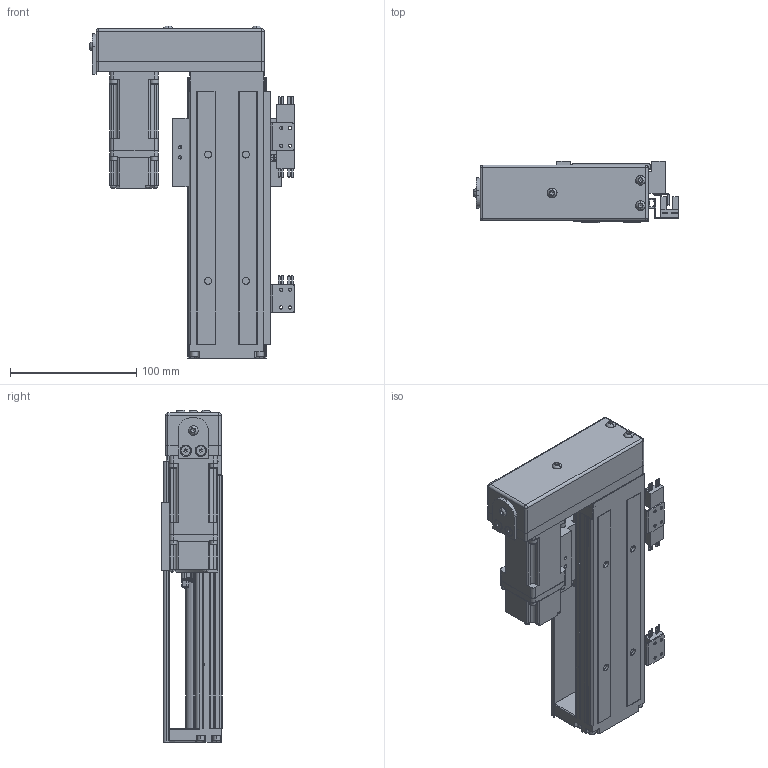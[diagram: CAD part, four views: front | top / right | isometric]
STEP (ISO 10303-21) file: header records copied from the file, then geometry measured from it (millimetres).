
FILE_DESCRIPTION (( 'STEP AP214' ), '1' );
FILE_NAME ('SFKK60-200A1-HR0C.STEP', '2023-02-17T02:19:15', ( '微软用户' ), ( '微软中国' ), 'SwSTEP 2.0', 'SolidWorks 2018', '' );
FILE_SCHEMA (( 'AUTOMOTIVE_DESIGN' ));
Length unit declared in the file: millimetre
Products named in the file (12): hexagon socket countersunk head screws gb_GB_FASTENER_SCREWS_HSCHS M3X8-N; SFKK60-H0-P10侂狟100W耜蚾; 开关固定座：KK-674S2-F; SX674嫖萇羲壽; 带盖挡光片：KK-60-S2-D1; SFKK60-200A1-HR0C; SFKK-60-CU_200; 蚐郲; SFKK60-LR 憤癹寢耋_200; 极限轨道与开关固定座组合_200; SFKK60-A1-C; SFKK60-H0_200
Assembly tree (17 placements, depth 3):
  SFKK60-200A1-HR0C
    SFKK60-H0_200
    SFKK60-A1-C
    蚐郲
    极限轨道与开关固定座组合_200
      SFKK60-LR 憤癹寢耋_200
      开关固定座：KK-674S2-F  x2
    SX674嫖萇羲壽  x3
    带盖挡光片：KK-60-S2-D1
    SFKK-60-CU_200
    hexagon socket countersunk head screws gb_GB_FASTENER_SCREWS_HSCHS M3X8-N  x4
    SFKK60-H0-P10侂狟100W耜蚾
Bounding box: 162.2 x 48 x 262.7 mm (x, y, z)
Volume: 380401.5 mm3; surface area: 251665.3 mm2
Topology: 40 solids, 69 shells, 4208 faces, 10522 edges, 6514 vertices
Faces by surface type: cylinder 1623, plane 1490, cone 887, torus 91, bspline 91, sphere 26
Entity records: 165226 total; most frequent: CARTESIAN_POINT 29379, DIRECTION 20944, ORIENTED_EDGE 19752, EDGE_CURVE 9938, AXIS2_PLACEMENT_3D 7766, VERTEX_POINT 6217, VECTOR 5412, LINE 5412
